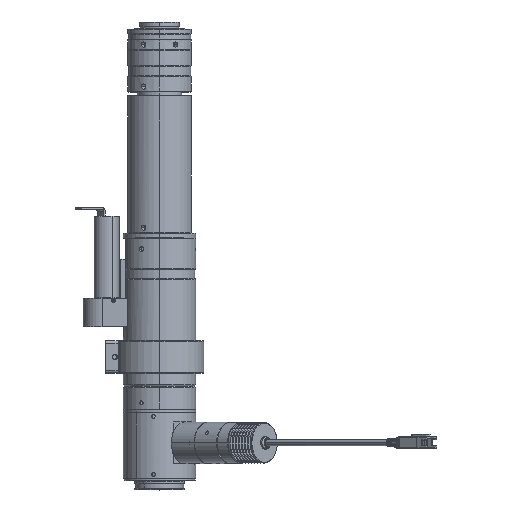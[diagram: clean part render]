
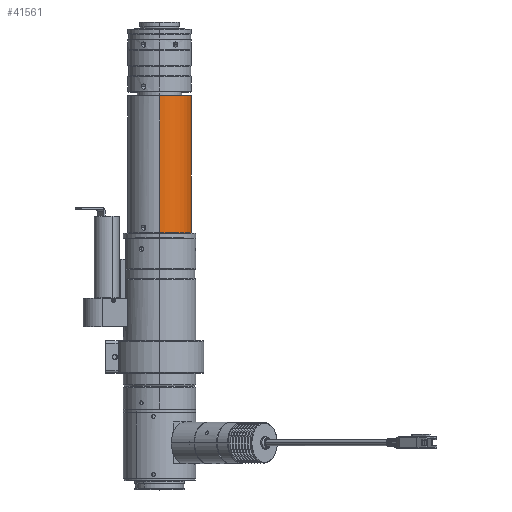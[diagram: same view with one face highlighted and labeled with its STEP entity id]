
A CAD part, top view. The second image highlights one B-rep face of the part: STEP entity #41561.
In plain terms, the highlighted cylindrical face has radius 20.5 mm (diameter 41 mm), a partial arc.
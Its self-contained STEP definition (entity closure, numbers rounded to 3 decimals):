
#165 = CARTESIAN_POINT ( 'NONE',  ( 20.433, 224.845, 1.65 ) ) ;
#257 = AXIS2_PLACEMENT_3D ( 'NONE', #8664, #13480, #38117 ) ;
#513 = CARTESIAN_POINT ( 'NONE',  ( 0., 221.545, -20.5 ) ) ;
#653 = CARTESIAN_POINT ( 'NONE',  ( 20.446, 225.577, -1.483 ) ) ;
#811 = CARTESIAN_POINT ( 'NONE',  ( 20.433, 224.953, 1.65 ) ) ;
#1133 = CARTESIAN_POINT ( 'NONE',  ( 20.471, 226.089, 1.089 ) ) ;
#1462 = CARTESIAN_POINT ( 'NONE',  ( 20.475, 223.533, 1.007 ) ) ;
#1610 = CARTESIAN_POINT ( 'NONE',  ( 20.433, 224.845, -1.65 ) ) ;
#1902 = VERTEX_POINT ( 'NONE', #21177 ) ;
#2389 = EDGE_CURVE ( 'NONE', #29266, #28817, #13501, .T. ) ;
#2673 = FACE_OUTER_BOUND ( 'NONE', #25013, .T. ) ;
#2751 = DIRECTION ( 'NONE',  ( 0., 0., -1. ) ) ;
#2766 = LINE ( 'NONE', #9385, #17244 ) ;
#4242 = CARTESIAN_POINT ( 'NONE',  ( 20.496, 226.452, -0.433 ) ) ;
#4745 = CARTESIAN_POINT ( 'NONE',  ( 0., 221.545, 20.5 ) ) ;
#4853 = EDGE_CURVE ( 'NONE', #34606, #17464, #2766, .T. ) ;
#4912 = FACE_BOUND ( 'NONE', #12201, .T. ) ;
#5026 = CARTESIAN_POINT ( 'NONE',  ( 20.476, 223.532, -1.005 ) ) ;
#5185 = B_SPLINE_CURVE_WITH_KNOTS ( 'NONE', 3,
 ( #17333, #35878, #39758, #25626, #7918, #653, #11208, #18718, #19009, #26073, #32689, #4242, #28999, #36481, #7777, #32850, #22100, #43609, #32554, #39612, #1133, #11660, #14802, #15444, #29162, #28848, #15115, #18405, #811, #7630 ),
 .UNSPECIFIED., .F., .F.,
 ( 4, 2, 2, 2, 2, 2, 2, 2, 2, 2, 2, 2, 2, 2, 4 ),
 ( 0., 0., 0.001, 0.001, 0.001, 0.002, 0.003, 0.003, 0.003, 0.004, 0.004, 0.004, 0.005, 0.005, 0.005 ),
 .UNSPECIFIED. ) ;
#5296 = B_SPLINE_CURVE_WITH_KNOTS ( 'NONE', 3,
 ( #23791, #30890, #23945, #29829, #12158, #43945, #1462, #31038, #29978, #12311, #19343, #26543, #9658, #13226, #27488, #9818, #6245, #13394, #26259, #5026, #8564, #36806, #5337, #26411, #22896, #1610 ),
 .UNSPECIFIED., .F., .F.,
 ( 4, 2, 2, 2, 2, 2, 2, 2, 2, 2, 2, 2, 4 ),
 ( 0.005, 0.006, 0.006, 0.007, 0.007, 0.007, 0.008, 0.008, 0.008, 0.009, 0.009, 0.01, 0.01 ),
 .UNSPECIFIED. ) ;
#5337 = CARTESIAN_POINT ( 'NONE',  ( 20.449, 224.013, -1.441 ) ) ;
#6141 = DIRECTION ( 'NONE',  ( 0., -1., 0. ) ) ;
#6245 = CARTESIAN_POINT ( 'NONE',  ( 20.493, 223.279, -0.531 ) ) ;
#7630 = CARTESIAN_POINT ( 'NONE',  ( 20.433, 224.845, 1.65 ) ) ;
#7777 = CARTESIAN_POINT ( 'NONE',  ( 20.499, 226.484, 0.216 ) ) ;
#7918 = CARTESIAN_POINT ( 'NONE',  ( 20.44, 225.377, -1.566 ) ) ;
#8564 = CARTESIAN_POINT ( 'NONE',  ( 20.471, 223.601, -1.09 ) ) ;
#8664 = CARTESIAN_POINT ( 'NONE',  ( 0., 221.545, 0. ) ) ;
#9385 = CARTESIAN_POINT ( 'NONE',  ( 0., 221.345, 20.5 ) ) ;
#9658 = CARTESIAN_POINT ( 'NONE',  ( 20.5, 223.195, 0.11 ) ) ;
#9818 = CARTESIAN_POINT ( 'NONE',  ( 20.496, 223.247, -0.426 ) ) ;
#9872 = CARTESIAN_POINT ( 'NONE',  ( 0., 221.345, 0. ) ) ;
#9883 = DIRECTION ( 'NONE',  ( 0., -1., 0. ) ) ;
#10032 = CARTESIAN_POINT ( 'NONE',  ( 0., 309.545, 0. ) ) ;
#10196 = DIRECTION ( 'NONE',  ( 0., 0., 1. ) ) ;
#11208 = CARTESIAN_POINT ( 'NONE',  ( 20.45, 225.672, -1.432 ) ) ;
#11660 = CARTESIAN_POINT ( 'NONE',  ( 20.462, 225.935, 1.244 ) ) ;
#11769 = EDGE_CURVE ( 'NONE', #17464, #28817, #35453, .T. ) ;
#12138 = ORIENTED_EDGE ( 'NONE', *, *, #11769, .T. ) ;
#12158 = CARTESIAN_POINT ( 'NONE',  ( 20.458, 223.831, 1.32 ) ) ;
#12201 = EDGE_LOOP ( 'NONE', ( #25689, #18827 ) ) ;
#12246 = DIRECTION ( 'NONE',  ( 0., -1., 0. ) ) ;
#12311 = CARTESIAN_POINT ( 'NONE',  ( 20.493, 223.28, 0.533 ) ) ;
#13226 = CARTESIAN_POINT ( 'NONE',  ( 20.5, 223.195, -0.108 ) ) ;
#13394 = CARTESIAN_POINT ( 'NONE',  ( 20.487, 223.362, -0.731 ) ) ;
#13480 = DIRECTION ( 'NONE',  ( 0., 1., 0. ) ) ;
#13501 = LINE ( 'NONE', #40033, #35555 ) ;
#13677 = CARTESIAN_POINT ( 'NONE',  ( 0., 309.545, -20.5 ) ) ;
#14802 = CARTESIAN_POINT ( 'NONE',  ( 20.458, 225.852, 1.312 ) ) ;
#15013 = AXIS2_PLACEMENT_3D ( 'NONE', #10032, #9883, #10196 ) ;
#15115 = CARTESIAN_POINT ( 'NONE',  ( 20.438, 225.274, 1.597 ) ) ;
#15444 = CARTESIAN_POINT ( 'NONE',  ( 20.45, 225.673, 1.431 ) ) ;
#17244 = VECTOR ( 'NONE', #33829, 1000. ) ;
#17333 = CARTESIAN_POINT ( 'NONE',  ( 20.433, 224.845, -1.65 ) ) ;
#17464 = VERTEX_POINT ( 'NONE', #4745 ) ;
#18405 = CARTESIAN_POINT ( 'NONE',  ( 20.434, 225.062, 1.639 ) ) ;
#18604 = EDGE_CURVE ( 'NONE', #1902, #45864, #5185, .T. ) ;
#18718 = CARTESIAN_POINT ( 'NONE',  ( 20.458, 225.851, -1.312 ) ) ;
#18827 = ORIENTED_EDGE ( 'NONE', *, *, #36460, .F. ) ;
#19009 = CARTESIAN_POINT ( 'NONE',  ( 20.462, 225.936, -1.243 ) ) ;
#19343 = CARTESIAN_POINT ( 'NONE',  ( 20.496, 223.248, 0.428 ) ) ;
#21177 = CARTESIAN_POINT ( 'NONE',  ( 20.433, 224.845, -1.65 ) ) ;
#21712 = CIRCLE ( 'NONE', #15013, 20.5 ) ;
#22100 = CARTESIAN_POINT ( 'NONE',  ( 20.493, 226.411, 0.531 ) ) ;
#22166 = CYLINDRICAL_SURFACE ( 'NONE', #26310, 20.5 ) ;
#22896 = CARTESIAN_POINT ( 'NONE',  ( 20.433, 224.627, -1.65 ) ) ;
#23791 = CARTESIAN_POINT ( 'NONE',  ( 20.433, 224.845, 1.65 ) ) ;
#23945 = CARTESIAN_POINT ( 'NONE',  ( 20.437, 224.413, 1.607 ) ) ;
#25013 = EDGE_LOOP ( 'NONE', ( #28437, #44709, #12138, #36360 ) ) ;
#25626 = CARTESIAN_POINT ( 'NONE',  ( 20.438, 225.272, -1.597 ) ) ;
#25689 = ORIENTED_EDGE ( 'NONE', *, *, #18604, .F. ) ;
#26073 = CARTESIAN_POINT ( 'NONE',  ( 20.475, 226.164, -1.014 ) ) ;
#26259 = CARTESIAN_POINT ( 'NONE',  ( 20.484, 223.412, -0.826 ) ) ;
#26310 = AXIS2_PLACEMENT_3D ( 'NONE', #9872, #6141, #2751 ) ;
#26411 = CARTESIAN_POINT ( 'NONE',  ( 20.437, 224.41, -1.606 ) ) ;
#26543 = CARTESIAN_POINT ( 'NONE',  ( 20.499, 223.206, 0.217 ) ) ;
#27488 = CARTESIAN_POINT ( 'NONE',  ( 20.499, 223.206, -0.215 ) ) ;
#28437 = ORIENTED_EDGE ( 'NONE', *, *, #40014, .T. ) ;
#28817 = VERTEX_POINT ( 'NONE', #513 ) ;
#28848 = CARTESIAN_POINT ( 'NONE',  ( 20.44, 225.376, 1.566 ) ) ;
#28999 = CARTESIAN_POINT ( 'NONE',  ( 20.5, 226.495, -0.216 ) ) ;
#29162 = CARTESIAN_POINT ( 'NONE',  ( 20.446, 225.576, 1.483 ) ) ;
#29266 = VERTEX_POINT ( 'NONE', #13677 ) ;
#29829 = CARTESIAN_POINT ( 'NONE',  ( 20.449, 224.015, 1.442 ) ) ;
#29978 = CARTESIAN_POINT ( 'NONE',  ( 20.487, 223.363, 0.733 ) ) ;
#30890 = CARTESIAN_POINT ( 'NONE',  ( 20.433, 224.63, 1.65 ) ) ;
#31038 = CARTESIAN_POINT ( 'NONE',  ( 20.483, 223.413, 0.827 ) ) ;
#32554 = CARTESIAN_POINT ( 'NONE',  ( 20.483, 226.277, 0.827 ) ) ;
#32689 = CARTESIAN_POINT ( 'NONE',  ( 20.484, 226.287, -0.83 ) ) ;
#32850 = CARTESIAN_POINT ( 'NONE',  ( 20.496, 226.442, 0.428 ) ) ;
#33829 = DIRECTION ( 'NONE',  ( 0., -1., 0. ) ) ;
#34606 = VERTEX_POINT ( 'NONE', #36236 ) ;
#35453 = CIRCLE ( 'NONE', #257, 20.5 ) ;
#35555 = VECTOR ( 'NONE', #12246, 1000. ) ;
#35878 = CARTESIAN_POINT ( 'NONE',  ( 20.433, 224.954, -1.65 ) ) ;
#36236 = CARTESIAN_POINT ( 'NONE',  ( 0., 309.545, 20.5 ) ) ;
#36360 = ORIENTED_EDGE ( 'NONE', *, *, #2389, .F. ) ;
#36460 = EDGE_CURVE ( 'NONE', #45864, #1902, #5296, .T. ) ;
#36481 = CARTESIAN_POINT ( 'NONE',  ( 20.5, 226.495, 0.107 ) ) ;
#36806 = CARTESIAN_POINT ( 'NONE',  ( 20.458, 223.83, -1.318 ) ) ;
#38117 = DIRECTION ( 'NONE',  ( 0., 0., -1. ) ) ;
#39612 = CARTESIAN_POINT ( 'NONE',  ( 20.475, 226.157, 1.006 ) ) ;
#39758 = CARTESIAN_POINT ( 'NONE',  ( 20.434, 225.061, -1.639 ) ) ;
#40014 = EDGE_CURVE ( 'NONE', #29266, #34606, #21712, .T. ) ;
#40033 = CARTESIAN_POINT ( 'NONE',  ( 0., 221.345, -20.5 ) ) ;
#41561 = ADVANCED_FACE ( 'NONE', ( #4912, #2673 ), #22166, .T. ) ;
#43609 = CARTESIAN_POINT ( 'NONE',  ( 20.487, 226.328, 0.731 ) ) ;
#43945 = CARTESIAN_POINT ( 'NONE',  ( 20.471, 223.603, 1.092 ) ) ;
#44709 = ORIENTED_EDGE ( 'NONE', *, *, #4853, .T. ) ;
#45864 = VERTEX_POINT ( 'NONE', #165 ) ;
